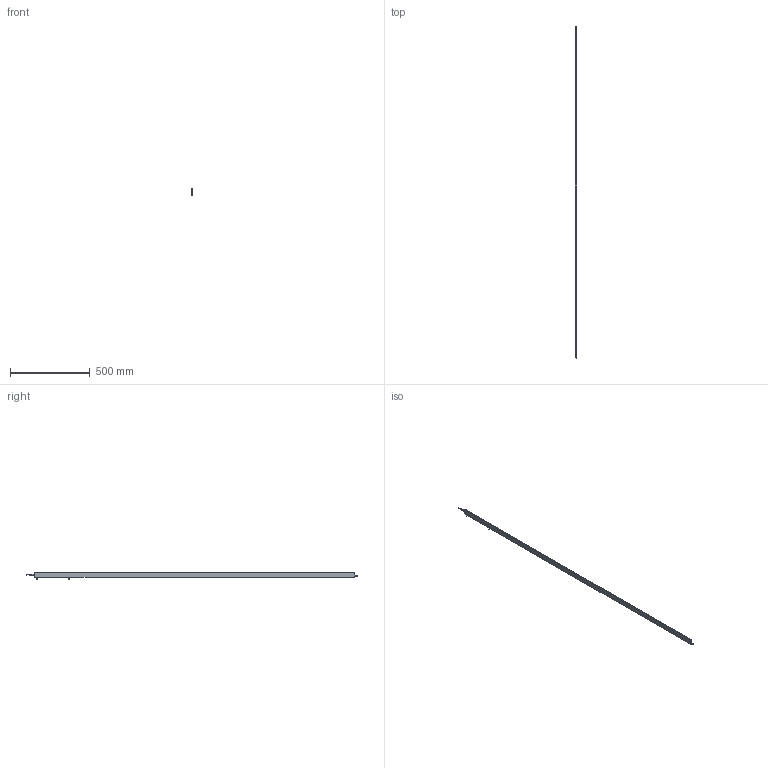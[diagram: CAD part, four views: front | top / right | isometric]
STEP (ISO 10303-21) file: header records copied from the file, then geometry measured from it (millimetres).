
FILE_DESCRIPTION (( 'STEP AP214' ), '1' );
FILE_NAME ('ILG-B-K2-2010mm.STEP', '2017-07-10T13:04:08', ( '' ), ( '' ), 'SwSTEP 2.0', 'SolidWorks 2016', '' );
FILE_SCHEMA (( 'AUTOMOTIVE_DESIGN' ));
Length unit declared in the file: millimetre
Products named in the file (1): ILG-B-K2-2010mm
Bounding box: 9 x 2083.5 x 46.21 mm (x, y, z)
Surface area: 334303.5 mm2 (no closed solid volume)
Topology: 0 solids, 15 shells, 702 faces, 1822 edges, 1157 vertices
Faces by surface type: cylinder 287, plane 266, cone 99, bspline 32, torus 18
Entity records: 31388 total; most frequent: CARTESIAN_POINT 6631, ORIENTED_EDGE 3597, DIRECTION 3488, EDGE_CURVE 1806, AXIS2_PLACEMENT_3D 1342, VERTEX_POINT 1157, LINE 804, VECTOR 804
